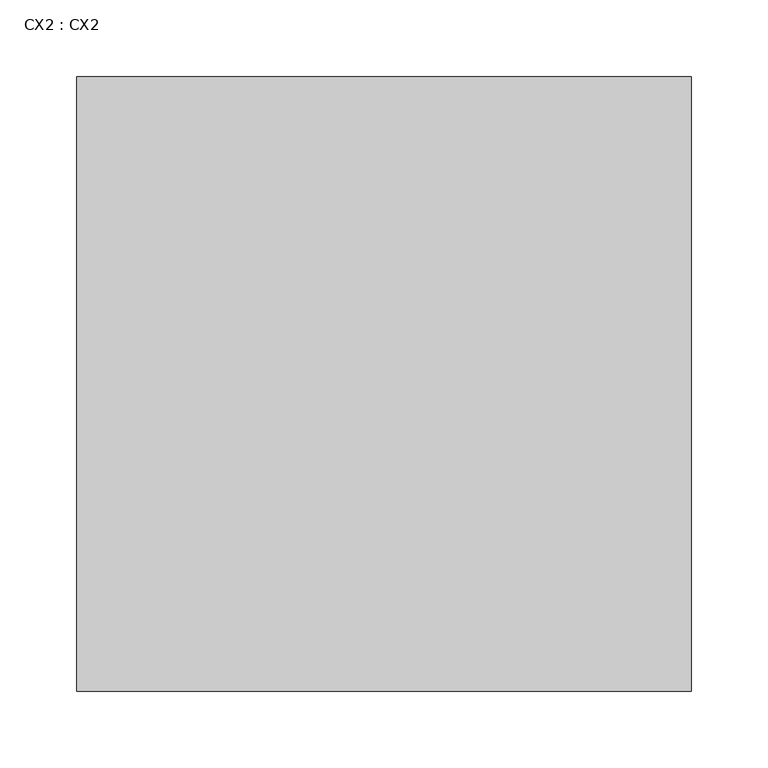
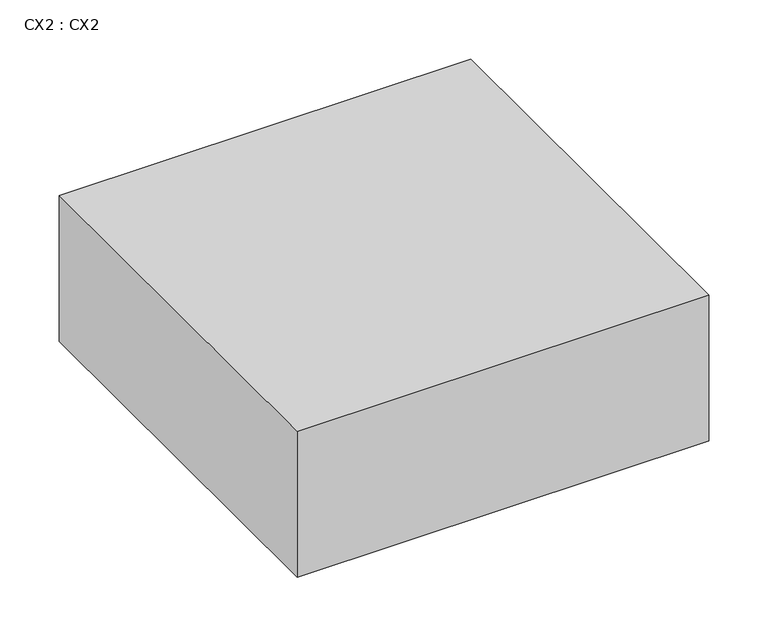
"""IFC4 building model written with IfcOpenShell, lengths in millimetres: proxy geometry, CX2 : CX2."""

from ifc_helpers import new_model, si_unit, frame, origin, place, context, project, spatial, polyline, outline, extrude, source, transform, mapped, element, save


def cx2_cx2_2d606ddb(model_context):
    return source(origin(), model_context, "Body", "SweptSolid", [
        extrude(outline(polyline([(14153.8, 16630.6), (14553.8, 16630.6), (14553.8, 16230.6), (14153.8, 16230.6), (14153.8, 16630.6)])), frame((0.0, 0.0, 2880.0), z_axis=(0.0, 0.0, 1.0), x_axis=(1.0, 0.0, 0.0)), (0.0, 0.0, 1.0), 150.0),
    ])


if __name__ == "__main__":
    model = new_model("IFC4")
    model_context = context("Model", 3, world=origin())
    ifc_project = project(units=[si_unit("LENGTHUNIT", "METRE", prefix="MILLI")], contexts=[model_context])
    site = spatial("IfcSite", under=ifc_project)
    building = spatial("IfcBuilding", under=site)
    placement = place(None, origin())
    cx2_cx2_shape = cx2_cx2_2d606ddb(model_context)
    element("IfcBuildingElementProxy", 1, Name="CX2 : CX2", ObjectType="CX2 : CX2", at=placement, inside=building, context=model_context, shape_type="MappedRepresentation", body=[
        mapped(cx2_cx2_shape, transform((0.0, 0.0, 0.0), x_axis=(1.0, 0.0, 0.0), y_axis=(0.0, 1.0, 0.0), z_axis=(0.0, 0.0, 1.0))),
    ])
    save(model, "model.ifc")
